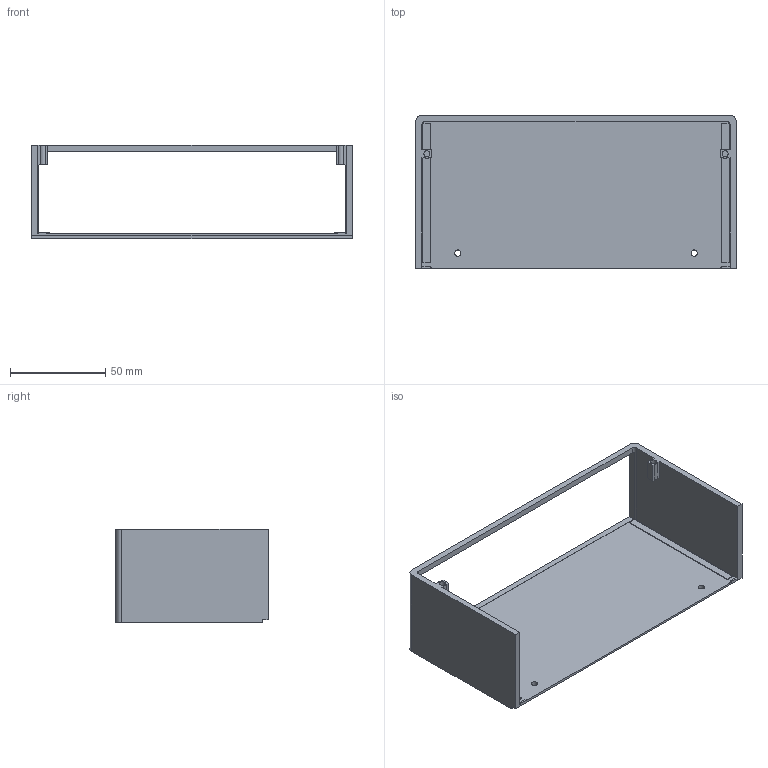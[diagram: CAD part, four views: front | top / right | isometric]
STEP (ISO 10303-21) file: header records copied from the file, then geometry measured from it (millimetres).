
FILE_DESCRIPTION(('Open CASCADE Model'),'2;1');
FILE_NAME('Open CASCADE Shape Model','2026-11-07T14:43:26',('Author'),( 'Open CASCADE'),'Open CASCADE STEP processor 7.9','Open CASCADE 7.9' ,'Unknown');
FILE_SCHEMA(('AUTOMOTIVE_DESIGN { 1 0 10303 214 1 1 1 1 }'));
Length unit declared in the file: millimetre
Products named in the file (1): Open CASCADE STEP translator 7.9 2
Bounding box: 168 x 80 x 49.2 mm (x, y, z)
Volume: 62769.8 mm3; surface area: 46204.4 mm2
Topology: 1 solids, 1 shells, 63 faces, 174 edges, 116 vertices
Faces by surface type: plane 49, cylinder 14
Full cylindrical faces by diameter (mm): 3.2 x2, 3.3 x2
Entity records: 4222 total; most frequent: CARTESIAN_POINT 863, DIRECTION 576, LINE 363, VECTOR 363, ORIENTED_EDGE 348, PCURVE 348, DEFINITIONAL_REPRESENTATION 348, EDGE_CURVE 174
